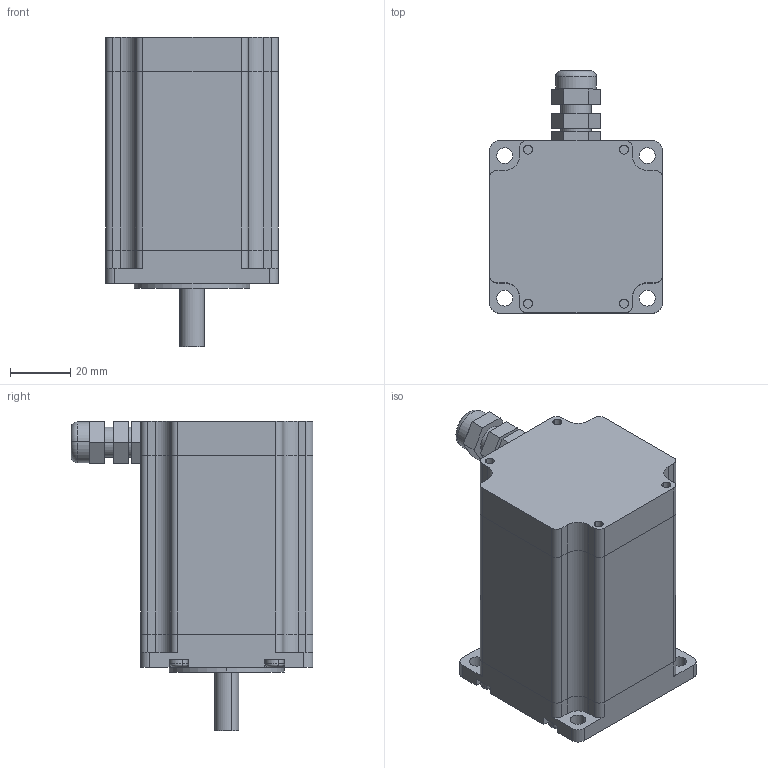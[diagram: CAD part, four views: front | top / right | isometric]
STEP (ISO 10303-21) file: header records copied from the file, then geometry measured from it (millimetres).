
FILE_DESCRIPTION (( 'STEP AP214' ), '1' );
FILE_NAME ('JK57HS82-4004-02.STEP', '2020-10-07T06:10:23', ( 'user' ), ( 'CHINA' ), 'SwSTEP 2.0', 'SolidWorks 2016', '' );
FILE_SCHEMA (( 'AUTOMOTIVE_DESIGN' ));
Length unit declared in the file: millimetre
Products named in the file (8): 8｡ﾁ21; 滅阨諉芛M10; 滅阨蚐猾22; JK.006.057.001F坶踡蹟譫; 57-59 隅赽; M3｡ﾁ35; JK.006.057.001B(拸笢陑謂); JK57HS82-4004-02
Assembly tree (10 placements, depth 2):
  JK57HS82-4004-02
    JK.006.057.001B(拸笢陑謂)
    M3｡ﾁ35  x4
    57-59 隅赽
    JK.006.057.001F坶踡蹟譫
    滅阨蚐猾22
    滅阨諉芛M10
    8｡ﾁ21
Bounding box: 57 x 80 x 102.4 mm (x, y, z)
Volume: 158588.9 mm3; surface area: 54419.1 mm2
Topology: 10 solids, 10 shells, 883 faces, 2488 edges, 1646 vertices
Faces by surface type: cylinder 678, plane 183, bspline 12, torus 10
Entity records: 19916 total; most frequent: CARTESIAN_POINT 10525, ORIENTED_EDGE 2078, DIRECTION 1747, EDGE_CURVE 1039, VERTEX_POINT 689, AXIS2_PLACEMENT_3D 602, LINE 543, VECTOR 543
